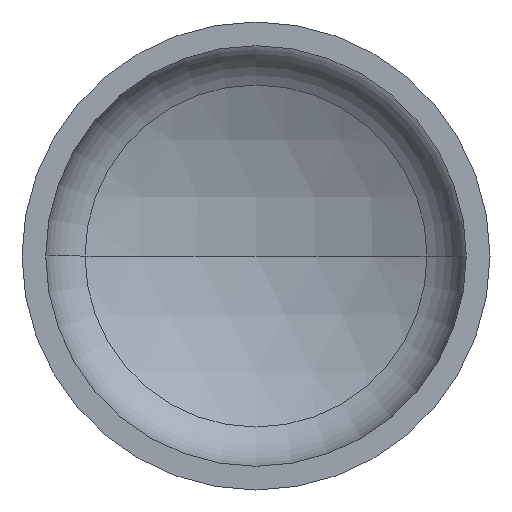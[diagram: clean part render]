
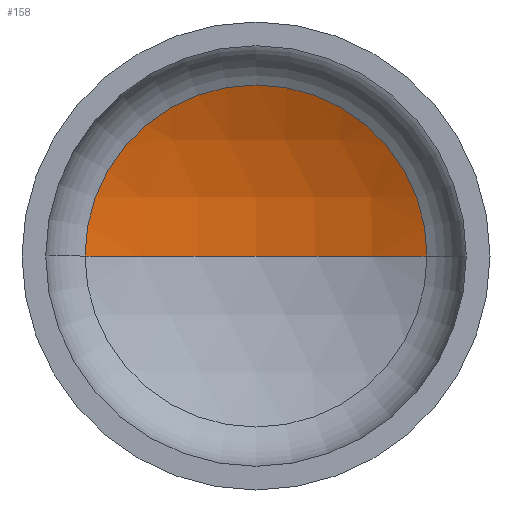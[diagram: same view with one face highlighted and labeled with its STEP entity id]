
A CAD part, front view. The second image highlights one B-rep face of the part: STEP entity #158.
In plain terms, the highlighted spherical face has radius 284 mm.
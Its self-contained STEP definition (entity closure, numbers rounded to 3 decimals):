
#13 = DIRECTION ( 'NONE',  ( 0., 0., -1. ) ) ;
#15 = ORIENTED_EDGE ( 'NONE', *, *, #155, .T. ) ;
#16 = EDGE_LOOP ( 'NONE', ( #51, #15, #44 ) ) ;
#19 = VERTEX_POINT ( 'NONE', #278 ) ;
#23 = DIRECTION ( 'NONE',  ( 1., 0., 0. ) ) ;
#34 = SPHERICAL_SURFACE ( 'NONE', #94, 284. ) ;
#44 = ORIENTED_EDGE ( 'NONE', *, *, #153, .T. ) ;
#51 = ORIENTED_EDGE ( 'NONE', *, *, #157, .F. ) ;
#67 = VERTEX_POINT ( 'NONE', #245 ) ;
#70 = CIRCLE ( 'NONE', #112, 129.97 ) ;
#94 = AXIS2_PLACEMENT_3D ( 'NONE', #257, #13, #197 ) ;
#98 = VERTEX_POINT ( 'NONE', #232 ) ;
#104 = AXIS2_PLACEMENT_3D ( 'NONE', #176, #188, #195 ) ;
#107 = AXIS2_PLACEMENT_3D ( 'NONE', #338, #204, #141 ) ;
#112 = AXIS2_PLACEMENT_3D ( 'NONE', #318, #376, #23 ) ;
#141 = DIRECTION ( 'NONE',  ( -1., 0., 0. ) ) ;
#153 = EDGE_CURVE ( 'NONE', #67, #98, #70, .T. ) ;
#155 = EDGE_CURVE ( 'NONE', #19, #67, #371, .T. ) ;
#157 = EDGE_CURVE ( 'NONE', #19, #98, #255, .T. ) ;
#158 = ADVANCED_FACE ( 'NONE', ( #313 ), #34, .F. ) ;
#176 = CARTESIAN_POINT ( 'NONE',  ( 0., -148.612, 0. ) ) ;
#188 = DIRECTION ( 'NONE',  ( 0., 0., 1. ) ) ;
#195 = DIRECTION ( 'NONE',  ( 1., 0., 0. ) ) ;
#197 = DIRECTION ( 'NONE',  ( -1., 0., 0. ) ) ;
#204 = DIRECTION ( 'NONE',  ( 0., 0., -1. ) ) ;
#232 = CARTESIAN_POINT ( 'NONE',  ( -129.97, 103.903, 0. ) ) ;
#245 = CARTESIAN_POINT ( 'NONE',  ( 129.97, 103.903, 0. ) ) ;
#255 = CIRCLE ( 'NONE', #104, 284. ) ;
#257 = CARTESIAN_POINT ( 'NONE',  ( 0., -148.612, 0. ) ) ;
#278 = CARTESIAN_POINT ( 'NONE',  ( 0., 135.388, 0. ) ) ;
#313 = FACE_OUTER_BOUND ( 'NONE', #16, .T. ) ;
#318 = CARTESIAN_POINT ( 'NONE',  ( 0., 103.903, 0. ) ) ;
#338 = CARTESIAN_POINT ( 'NONE',  ( 0., -148.612, 0. ) ) ;
#371 = CIRCLE ( 'NONE', #107, 284. ) ;
#376 = DIRECTION ( 'NONE',  ( 0., -1., 0. ) ) ;
